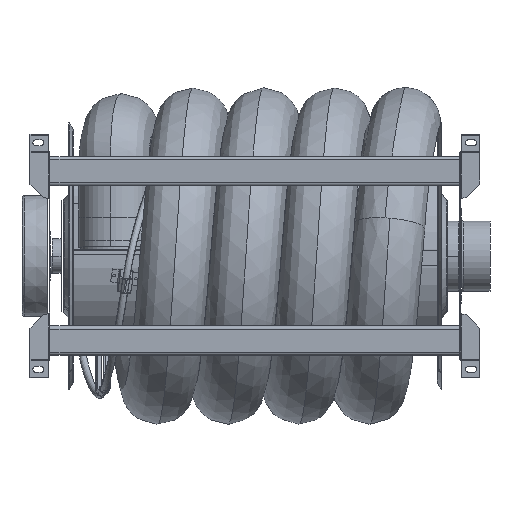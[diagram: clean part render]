
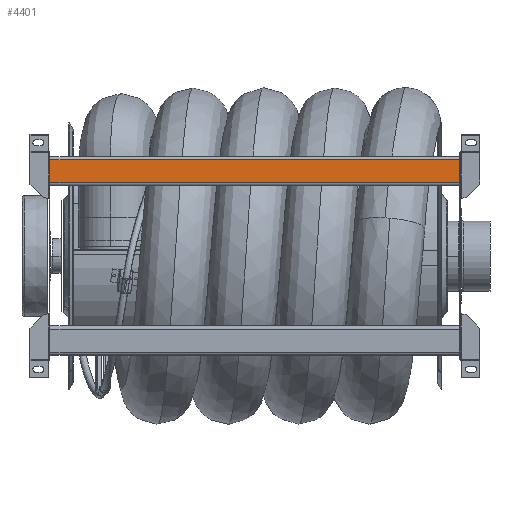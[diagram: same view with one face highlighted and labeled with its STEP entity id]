
A CAD part, front view. The second image highlights one B-rep face of the part: STEP entity #4401.
In plain terms, the highlighted planar face has unit normal (0, -1, 0).
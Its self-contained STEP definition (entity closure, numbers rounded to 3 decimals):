
#4132=DIRECTION('',(1.,0.,0.));
#4133=VECTOR('',#4132,922.);
#4134=CARTESIAN_POINT('',(-922.,-479.,216.903));
#4135=LINE('',#4134,#4133);
#4136=DIRECTION('',(0.,0.,-1.));
#4137=VECTOR('',#4136,51.903);
#4138=CARTESIAN_POINT('',(0.,-479.,216.903));
#4139=LINE('',#4138,#4137);
#4140=DIRECTION('',(1.,0.,0.));
#4141=VECTOR('',#4140,922.);
#4142=CARTESIAN_POINT('',(-922.,-479.,165.));
#4143=LINE('',#4142,#4141);
#4144=DIRECTION('',(0.,0.,1.));
#4145=VECTOR('',#4144,51.903);
#4146=CARTESIAN_POINT('',(-922.,-479.,165.));
#4147=LINE('',#4146,#4145);
#4235=CARTESIAN_POINT('',(0.,-479.,216.903));
#4237=VERTEX_POINT('',#4235);
#4238=CARTESIAN_POINT('',(-922.,-479.,216.903));
#4239=VERTEX_POINT('',#4238);
#4242=CARTESIAN_POINT('',(0.,-479.,165.));
#4244=VERTEX_POINT('',#4242);
#4248=CARTESIAN_POINT('',(-922.,-479.,165.));
#4249=VERTEX_POINT('',#4248);
#4386=CARTESIAN_POINT('',(-922.,-479.,158.));
#4387=DIRECTION('',(0.,-1.,0.));
#4388=DIRECTION('',(0.,0.,1.));
#4389=AXIS2_PLACEMENT_3D('',#4386,#4387,#4388);
#4390=PLANE('',#4389);
#4392=ORIENTED_EDGE('',*,*,#4391,.T.);
#4394=ORIENTED_EDGE('',*,*,#4393,.T.);
#4396=ORIENTED_EDGE('',*,*,#4395,.F.);
#4398=ORIENTED_EDGE('',*,*,#4397,.T.);
#4399=EDGE_LOOP('',(#4392,#4394,#4396,#4398));
#4400=FACE_OUTER_BOUND('',#4399,.F.);
#4391=EDGE_CURVE('',#4239,#4237,#4135,.T.);
#4393=EDGE_CURVE('',#4237,#4244,#4139,.T.);
#4395=EDGE_CURVE('',#4249,#4244,#4143,.T.);
#4397=EDGE_CURVE('',#4249,#4239,#4147,.T.);
#4401=ADVANCED_FACE('',(#4400),#4390,.T.);
